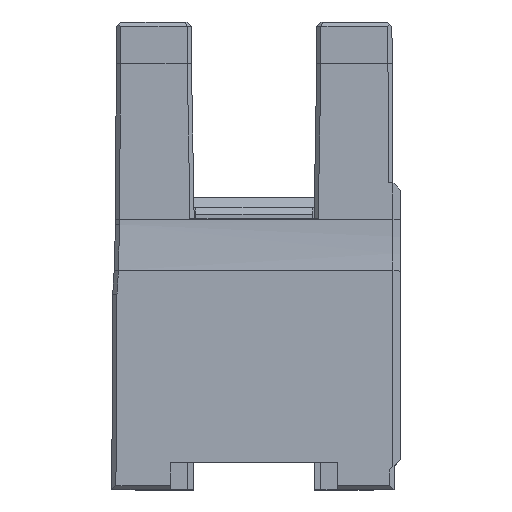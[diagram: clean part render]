
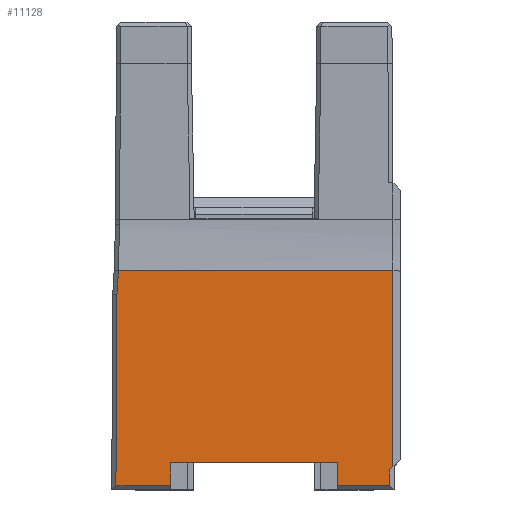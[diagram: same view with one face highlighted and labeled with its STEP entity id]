
A CAD part, top view. The second image highlights one B-rep face of the part: STEP entity #11128.
In plain terms, the highlighted planar face has unit normal (0, 0, 1).
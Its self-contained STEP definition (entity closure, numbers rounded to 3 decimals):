
#24 = EDGE_CURVE ( 'NONE', #3199, #2530, #1799, .T. ) ;
#186 = VECTOR ( 'NONE', #9133, 1000. ) ;
#307 = AXIS2_PLACEMENT_3D ( 'NONE', #2164, #5197, #12397 ) ;
#530 = ORIENTED_EDGE ( 'NONE', *, *, #2110, .T. ) ;
#618 = LINE ( 'NONE', #5526, #3620 ) ;
#1039 = VECTOR ( 'NONE', #8245, 1000. ) ;
#1041 = VECTOR ( 'NONE', #3887, 1000. ) ;
#1049 = CARTESIAN_POINT ( 'NONE',  ( 20., 1.3, 3.2 ) ) ;
#1188 = LINE ( 'NONE', #5301, #1543 ) ;
#1267 = CARTESIAN_POINT ( 'NONE',  ( 30.65, 10.5, 3.2 ) ) ;
#1543 = VECTOR ( 'NONE', #2201, 1000. ) ;
#1799 = LINE ( 'NONE', #12035, #1041 ) ;
#1810 = CARTESIAN_POINT ( 'NONE',  ( 24., 0.2, 3.2 ) ) ;
#1935 = CARTESIAN_POINT ( 'NONE',  ( 28., 1.3, 3.2 ) ) ;
#2012 = LINE ( 'NONE', #1810, #1039 ) ;
#2016 = ORIENTED_EDGE ( 'NONE', *, *, #24, .T. ) ;
#2110 = EDGE_CURVE ( 'NONE', #4757, #2254, #2012, .T. ) ;
#2164 = CARTESIAN_POINT ( 'NONE',  ( 24., 0., 3.2 ) ) ;
#2201 = DIRECTION ( 'NONE',  ( -0.005, -1., 0. ) ) ;
#2213 = EDGE_CURVE ( 'NONE', #3618, #3464, #11019, .T. ) ;
#2254 = VERTEX_POINT ( 'NONE', #8382 ) ;
#2530 = VERTEX_POINT ( 'NONE', #9115 ) ;
#2596 = VERTEX_POINT ( 'NONE', #1935 ) ;
#3138 = ORIENTED_EDGE ( 'NONE', *, *, #12854, .T. ) ;
#3199 = VERTEX_POINT ( 'NONE', #8457 ) ;
#3246 = DIRECTION ( 'NONE',  ( 1., 0., 0. ) ) ;
#3400 = VECTOR ( 'NONE', #5908, 1000. ) ;
#3464 = VERTEX_POINT ( 'NONE', #7054 ) ;
#3618 = VERTEX_POINT ( 'NONE', #1267 ) ;
#3620 = VECTOR ( 'NONE', #11712, 1000. ) ;
#3887 = DIRECTION ( 'NONE',  ( 0.707, 0.707, 0. ) ) ;
#4120 = FACE_OUTER_BOUND ( 'NONE', #10467, .T. ) ;
#4757 = VERTEX_POINT ( 'NONE', #6197 ) ;
#4997 = DIRECTION ( 'NONE',  ( 1., 0., 0. ) ) ;
#5043 = AXIS2_PLACEMENT_3D ( 'NONE', #9890, #5856, #8809 ) ;
#5197 = DIRECTION ( 'NONE',  ( 0., 0., 1. ) ) ;
#5228 = CARTESIAN_POINT ( 'NONE',  ( 30.5, 0., 3.2 ) ) ;
#5301 = CARTESIAN_POINT ( 'NONE',  ( 17.432, 9.365, 3.2 ) ) ;
#5483 = VECTOR ( 'NONE', #6488, 1000. ) ;
#5526 = CARTESIAN_POINT ( 'NONE',  ( 30.65, 0., 3.2 ) ) ;
#5637 = VERTEX_POINT ( 'NONE', #11405 ) ;
#5856 = DIRECTION ( 'NONE',  ( 0., 0., -1. ) ) ;
#5908 = DIRECTION ( 'NONE',  ( 0., 1., 0. ) ) ;
#5919 = LINE ( 'NONE', #5228, #5483 ) ;
#6043 = CARTESIAN_POINT ( 'NONE',  ( 24., 10.5, 3.2 ) ) ;
#6197 = CARTESIAN_POINT ( 'NONE',  ( 28., 0.2, 3.2 ) ) ;
#6445 = CARTESIAN_POINT ( 'NONE',  ( 28., 0., 3.2 ) ) ;
#6488 = DIRECTION ( 'NONE',  ( 0., 1., 0. ) ) ;
#6736 = EDGE_CURVE ( 'NONE', #11753, #2596, #8888, .T. ) ;
#7054 = CARTESIAN_POINT ( 'NONE',  ( 17.5, 10.5, 3.2 ) ) ;
#7824 = ORIENTED_EDGE ( 'NONE', *, *, #11435, .T. ) ;
#7942 = CARTESIAN_POINT ( 'NONE',  ( 20., 1.3, 3.2 ) ) ;
#8164 = CARTESIAN_POINT ( 'NONE',  ( 17.384, 0.2, 3.2 ) ) ;
#8245 = DIRECTION ( 'NONE',  ( 1., 0., 0. ) ) ;
#8351 = LINE ( 'NONE', #12478, #9416 ) ;
#8382 = CARTESIAN_POINT ( 'NONE',  ( 30.5, 0.2, 3.2 ) ) ;
#8457 = CARTESIAN_POINT ( 'NONE',  ( 30.5, 0.95, 3.2 ) ) ;
#8626 = ORIENTED_EDGE ( 'NONE', *, *, #6736, .T. ) ;
#8809 = DIRECTION ( 'NONE',  ( 1., 0., 0. ) ) ;
#8884 = EDGE_CURVE ( 'NONE', #5637, #11753, #9007, .T. ) ;
#8888 = LINE ( 'NONE', #7942, #12599 ) ;
#8915 = ORIENTED_EDGE ( 'NONE', *, *, #2213, .T. ) ;
#9007 = LINE ( 'NONE', #9071, #3400 ) ;
#9071 = CARTESIAN_POINT ( 'NONE',  ( 20., 1.3, 3.2 ) ) ;
#9115 = CARTESIAN_POINT ( 'NONE',  ( 30.65, 1.1, 3.2 ) ) ;
#9133 = DIRECTION ( 'NONE',  ( -1., 0., 0. ) ) ;
#9416 = VECTOR ( 'NONE', #3246, 1000. ) ;
#9495 = EDGE_CURVE ( 'NONE', #11811, #5637, #8351, .T. ) ;
#9517 = EDGE_CURVE ( 'NONE', #2530, #3618, #618, .T. ) ;
#9685 = VECTOR ( 'NONE', #11764, 1000. ) ;
#9890 = CARTESIAN_POINT ( 'NONE',  ( -32.64, 12.956, 3.2 ) ) ;
#10342 = ORIENTED_EDGE ( 'NONE', *, *, #13149, .T. ) ;
#10395 = CIRCLE ( 'NONE', #5043, 50.2 ) ;
#10467 = EDGE_LOOP ( 'NONE', ( #7824, #2016, #13143, #8915, #12433, #10342, #12115, #10758, #8626, #3138, #530 ) ) ;
#10739 = LINE ( 'NONE', #6445, #9685 ) ;
#10758 = ORIENTED_EDGE ( 'NONE', *, *, #8884, .T. ) ;
#10970 = VERTEX_POINT ( 'NONE', #13133 ) ;
#11019 = LINE ( 'NONE', #6043, #186 ) ;
#11128 = ADVANCED_FACE ( 'NONE', ( #4120 ), #12332, .T. ) ;
#11354 = EDGE_CURVE ( 'NONE', #3464, #10970, #10395, .T. ) ;
#11405 = CARTESIAN_POINT ( 'NONE',  ( 20., 0.2, 3.2 ) ) ;
#11435 = EDGE_CURVE ( 'NONE', #2254, #3199, #5919, .T. ) ;
#11712 = DIRECTION ( 'NONE',  ( 0., 1., 0. ) ) ;
#11753 = VERTEX_POINT ( 'NONE', #1049 ) ;
#11764 = DIRECTION ( 'NONE',  ( 0., -1., 0. ) ) ;
#11811 = VERTEX_POINT ( 'NONE', #8164 ) ;
#12035 = CARTESIAN_POINT ( 'NONE',  ( 30.5, 0.95, 3.2 ) ) ;
#12115 = ORIENTED_EDGE ( 'NONE', *, *, #9495, .T. ) ;
#12332 = PLANE ( 'NONE',  #307 ) ;
#12397 = DIRECTION ( 'NONE',  ( 1., 0., 0. ) ) ;
#12433 = ORIENTED_EDGE ( 'NONE', *, *, #11354, .T. ) ;
#12478 = CARTESIAN_POINT ( 'NONE',  ( 24., 0.2, 3.2 ) ) ;
#12599 = VECTOR ( 'NONE', #4997, 1000. ) ;
#12854 = EDGE_CURVE ( 'NONE', #2596, #4757, #10739, .T. ) ;
#13133 = CARTESIAN_POINT ( 'NONE',  ( 17.432, 9.365, 3.2 ) ) ;
#13143 = ORIENTED_EDGE ( 'NONE', *, *, #9517, .T. ) ;
#13149 = EDGE_CURVE ( 'NONE', #10970, #11811, #1188, .T. ) ;
